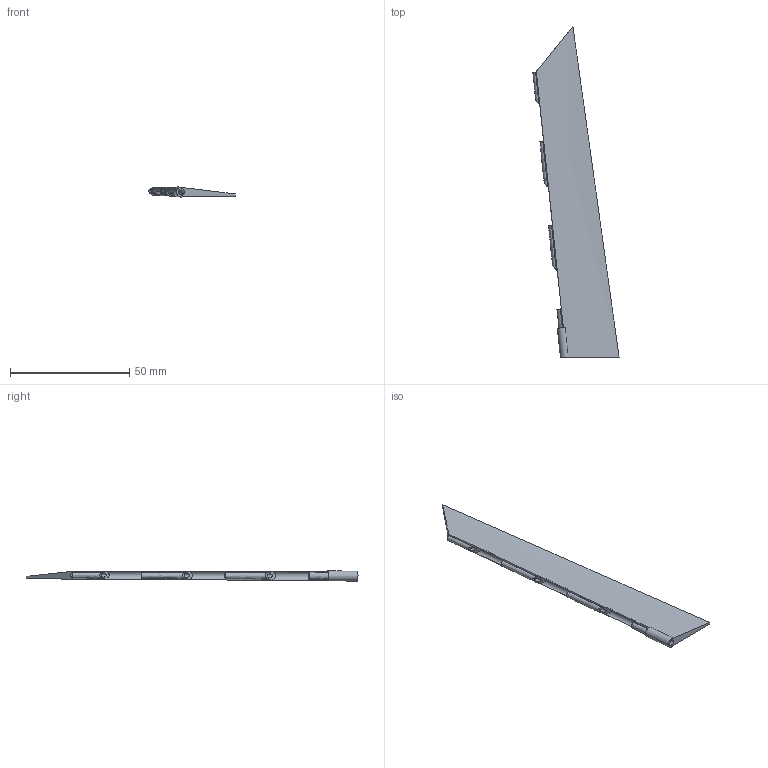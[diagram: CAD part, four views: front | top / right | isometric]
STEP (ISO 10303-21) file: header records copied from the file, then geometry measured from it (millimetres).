
FILE_DESCRIPTION(('Open CASCADE Model'),'2;1');
FILE_NAME('Open CASCADE Shape Model','2026-10-04T08:08:21',('Author'),( 'Open CASCADE'),'Open CASCADE STEP processor 7.9','Open CASCADE 7.9' ,'Unknown');
FILE_SCHEMA(('AUTOMOTIVE_DESIGN { 1 0 10303 214 1 1 1 1 }'));
Length unit declared in the file: millimetre
Products named in the file (1): Open CASCADE STEP translator 7.9 16
Bounding box: 36.2 x 139.38 x 4.23 mm (x, y, z)
Volume: 5184.9 mm3; surface area: 6458.4 mm2
Topology: 1 solids, 1 shells, 42 faces, 125 edges, 84 vertices
Faces by surface type: bspline 17, plane 15, cylinder 9, cone 1
Full cylindrical faces by diameter (mm): 1.6 x4
Entity records: 8026 total; most frequent: CARTESIAN_POINT 6032, B_SPLINE_CURVE_WITH_KNOTS 254, ORIENTED_EDGE 250, PCURVE 250, DEFINITIONAL_REPRESENTATION 250, DIRECTION 202, EDGE_CURVE 125, SURFACE_CURVE 120
